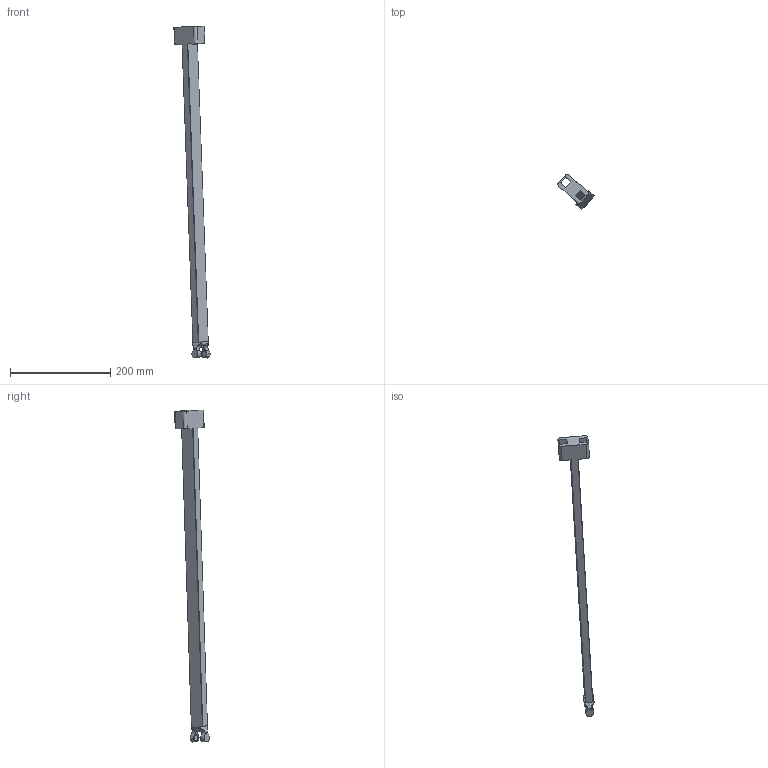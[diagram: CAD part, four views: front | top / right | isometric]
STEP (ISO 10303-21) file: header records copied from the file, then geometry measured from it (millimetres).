
FILE_DESCRIPTION (( 'STEP AP214' ), '1' );
FILE_NAME ('IRB365_1.5-1300_OmniCore_rev00_TELESCOPIC_UNIT_1_2_CAD.step', '2025-09-09T11:52:33', ( '' ), ( '' ), 'SwSTEP 2.0', 'SolidWorks 2024', '' );
FILE_SCHEMA (( 'AUTOMOTIVE_DESIGN' ));
Length unit declared in the file: millimetre
Products named in the file (1): IRB365_1.5-1300_OmniCore_rev00_TELESCOPIC_UNIT_1_2_CAD
Bounding box: 72.33 x 69.48 x 663.7 mm (x, y, z)
Volume: 322676.3 mm3; surface area: 69317.7 mm2
Topology: 1 solids, 1 shells, 62 faces, 170 edges, 112 vertices
Faces by surface type: plane 32, cylinder 30
Entity records: 2821 total; most frequent: CARTESIAN_POINT 533, ORIENTED_EDGE 340, DIRECTION 324, EDGE_CURVE 170, VERTEX_POINT 112, AXIS2_PLACEMENT_3D 111, VECTOR 102, LINE 102
